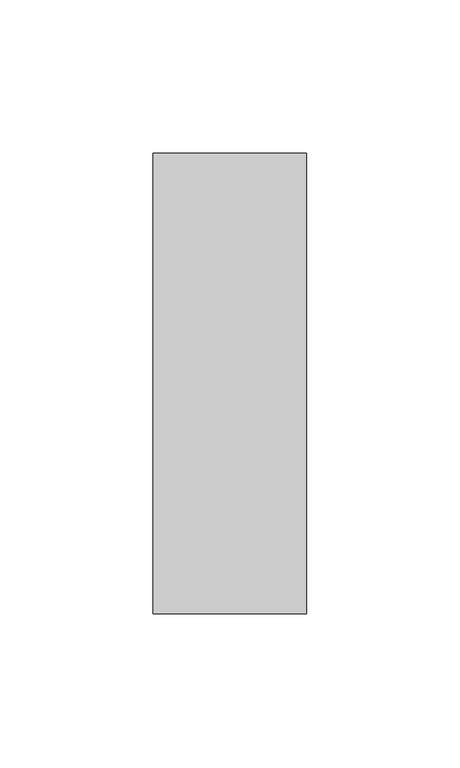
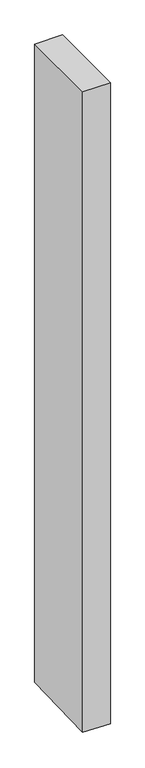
"""IFC4 building model written with IfcOpenShell, lengths in millimetres: member geometry, Прямоугольный импост : 50 x 150 мм."""

from ifc_helpers import new_model, si_unit, origin, place, context, project, spatial, faceted_brep, source, transform, mapped, element, save


def member_3e80b0ee(model_context):
    return source(origin(), model_context, "Body", "Brep", [
        faceted_brep([(25.0, 75.0, 0.0), (-25.0, 75.0, 0.0), (-25.0, -75.0, 0.0), (25.0, -75.0, 0.0), (25.0, 75.0, -1219.288275), (-25.0, 75.0, -1217.8028061), (-25.0, -75.0, -1222.8500726), (25.0, -75.0, -1224.3355415)], [[[0, 1, 2, 3]], [[1, 0, 4, 5]], [[2, 1, 5, 6]], [[3, 2, 6, 7]], [[0, 3, 7, 4]], [[4, 7, 6, 5]]]),
    ])


if __name__ == "__main__":
    model = new_model("IFC4")
    model_context = context("Model", 3, world=origin())
    ifc_project = project(units=[si_unit("LENGTHUNIT", "METRE", prefix="MILLI")], contexts=[model_context])
    site = spatial("IfcSite", under=ifc_project)
    building = spatial("IfcBuilding", under=site)
    placement = place(None, origin())
    member_shape = member_3e80b0ee(model_context)
    element("IfcMember", 1, ObjectType="Прямоугольный импост : 50 x 150 мм", at=placement, inside=building, context=model_context, shape_type="MappedRepresentation", body=[
        mapped(member_shape, transform((0.0, 0.0, 0.0), x_axis=(1.0, 0.0, 0.0), y_axis=(0.0, 1.0, 0.0), z_axis=(0.0, 0.0, 1.0))),
    ])
    save(model, "model.ifc")
